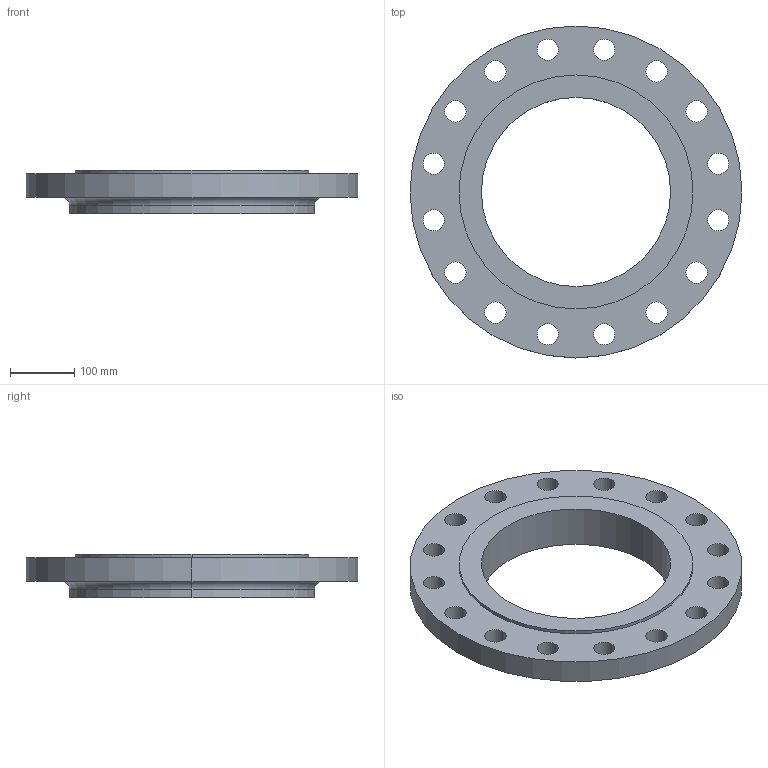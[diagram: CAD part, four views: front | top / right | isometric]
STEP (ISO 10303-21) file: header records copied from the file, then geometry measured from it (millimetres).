
FILE_DESCRIPTION (( 'STEP AP214' ), '1' );
FILE_NAME ('PN40 DN300 Type 13 - Type E Face.STEP', '2019-01-05T20:19:02', ( '' ), ( '' ), 'SwSTEP 2.0', 'SolidWorks 2019', '' );
FILE_SCHEMA (( 'AUTOMOTIVE_DESIGN' ));
Length unit declared in the file: millimetre
Products named in the file (1): PN40 DN300 Type 13 - Type E Face
Bounding box: 515 x 515 x 67 mm (x, y, z)
Volume: 6058081.8 mm3; surface area: 466407 mm2
Topology: 1 solids, 1 shells, 46 faces, 124 edges, 82 vertices
Faces by surface type: cylinder 40, plane 4, torus 2
Entity records: 1598 total; most frequent: DIRECTION 302, CARTESIAN_POINT 253, ORIENTED_EDGE 248, AXIS2_PLACEMENT_3D 131, EDGE_CURVE 124, CIRCLE 84, VERTEX_POINT 82, EDGE_LOOP 82
